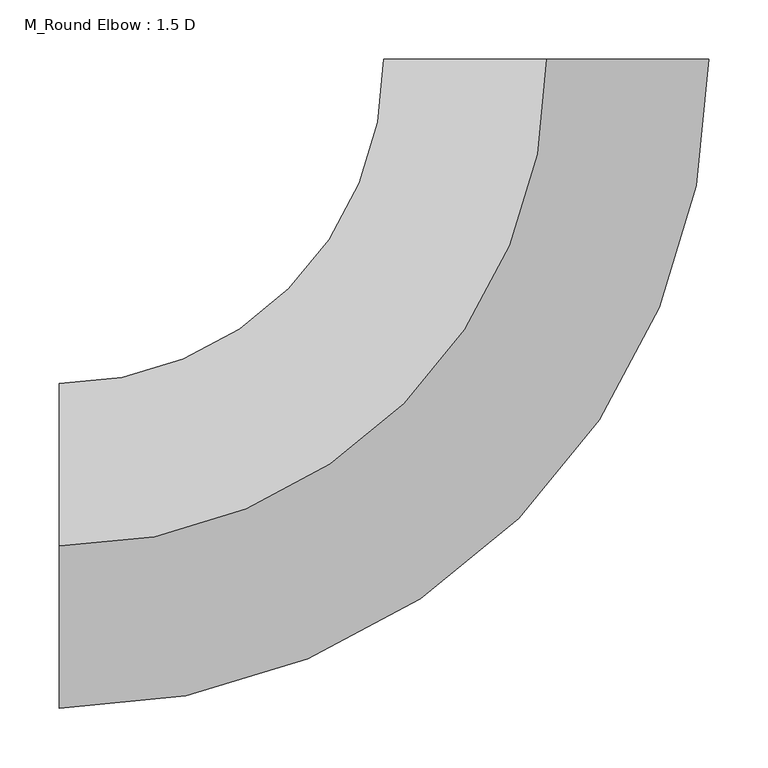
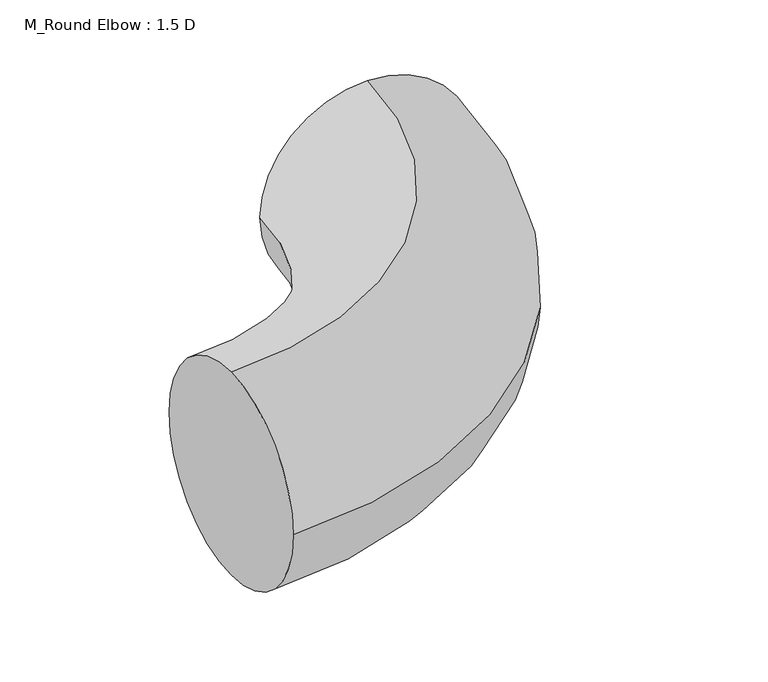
"""IFC4 building model written with IfcOpenShell, lengths in millimetres: duct fitting geometry, M_Round Elbow : 1.5 D."""

import ifcopenshell
import ifcopenshell.guid

model = None  # the IFC model being written
_history = None  # IfcOwnerHistory: only IFC2X3 demands one
_inside = {}  # id of a spatial element -> (the spatial element, [elements in it])
_under = {}  # id of a project, library or spatial element -> (it, [spatial elements below it])
_declared = {}  # id of a project -> (the project, [libraries it declares])
_typed = {}  # id of a type object -> (the type object, [elements of that type])
_made_of = {}  # id of a material, layer set ... -> (it, [elements and type objects made of it])


def new_model(schema):
    """Start an empty IFC model of exactly this schema.

    Asked for "IFC4X3", IfcOpenShell would pick the latest addendum, in which some entities
    have other attributes; the version numbers below select the first issue.
    IFC2X3 requires an IfcOwnerHistory on every rooted entity: one is made here for all.
    """
    global model, _history
    if schema == "IFC4X3":
        model = ifcopenshell.file(schema_version=(4, 3, 0, 0))
    else:
        model = ifcopenshell.file(schema=schema)
    _inside.clear()
    _under.clear()
    _declared.clear()
    _typed.clear()
    _made_of.clear()
    _history = None
    if model.schema == "IFC2X3":
        org = make("IfcOrganization", Name="unknown")
        user = make(
            "IfcPersonAndOrganization",
            ThePerson=make("IfcPerson", FamilyName="unknown"),
            TheOrganization=org,
        )
        app = make(
            "IfcApplication",
            ApplicationDeveloper=org,
            Version="unknown",
            ApplicationFullName="unknown",
            ApplicationIdentifier="unknown",
        )
        _history = make(
            "IfcOwnerHistory",
            OwningUser=user,
            OwningApplication=app,
            ChangeAction="ADDED",
            CreationDate=0,
        )
    return model


def make(cls, **values):
    """One entity of the class cls with the attributes given. An attribute that is None is left unset."""
    return model.create_entity(
        cls, **{name: value for name, value in values.items() if value is not None}
    )


def rooted(cls, **values):
    """An entity with a GlobalId (a new one), such as an element, a storey or a relation."""
    return make(cls, GlobalId=ifcopenshell.guid.new(), OwnerHistory=_history, **values)


def si_unit(unit_type, name, prefix=None):
    """IfcSIUnit, for example si_unit("LENGTHUNIT", "METRE", prefix="MILLI")."""
    return make("IfcSIUnit", UnitType=unit_type, Prefix=prefix, Name=name)


def assignment(units):
    """IfcUnitAssignment: the units of a project."""
    return None if units is None else make("IfcUnitAssignment", Units=units)


def point(xyz):
    """IfcCartesianPoint."""
    return None if xyz is None else make("IfcCartesianPoint", Coordinates=xyz)


def direction(xyz):
    """IfcDirection."""
    return None if xyz is None else make("IfcDirection", DirectionRatios=xyz)


def frame(location, z_axis=None, x_axis=None):
    """IfcAxis2Placement3D, a coordinate frame: its origin and axes. An axis left out is left unset."""
    return make(
        "IfcAxis2Placement3D",
        Location=point(location),
        Axis=direction(z_axis),
        RefDirection=direction(x_axis),
    )


def origin():
    """The frame at (0, 0, 0) with its axes left unset."""
    return frame((0.0, 0.0, 0.0))


def place(relative_to, where):
    """IfcLocalPlacement: puts the frame where relative to a parent placement (None: the world)."""
    return make(
        "IfcLocalPlacement", PlacementRelTo=relative_to, RelativePlacement=where
    )


def context(
    kind, dimensions, precision=None, world=None, true_north=None, identifier=None
):
    """IfcGeometricRepresentationContext, for example the 3D "Model" context."""
    return make(
        "IfcGeometricRepresentationContext",
        ContextIdentifier=identifier,
        ContextType=kind,
        CoordinateSpaceDimension=dimensions,
        Precision=precision,
        WorldCoordinateSystem=world,
        TrueNorth=true_north,
    )


def project(units=None, contexts=None):
    """IfcProject with its units and contexts."""
    return rooted(
        "IfcProject",
        Name="project",
        RepresentationContexts=contexts,
        UnitsInContext=assignment(units),
    )


def spatial(cls, under=None, at=None, **own):
    """A site, building, storey or space (cls), placed at a placement, below another one or the project."""
    s = rooted(cls, ObjectPlacement=at, **own)
    if under is not None:
        _under.setdefault(under.id(), (under, []))[1].append(s)
    return s


def circle_curve(where, radius):
    """IfcCircle in the frame where."""
    return make("IfcCircle", Position=where, Radius=radius)


def ellipse_curve(where, semi_axis1, semi_axis2):
    """IfcEllipse in the frame where."""
    return make(
        "IfcEllipse", Position=where, SemiAxis1=semi_axis1, SemiAxis2=semi_axis2
    )


def trimmed(basis, trim1, trim2, sense, master):
    """IfcTrimmedCurve: the piece of a basis curve between two trims."""
    return make(
        "IfcTrimmedCurve",
        BasisCurve=basis,
        Trim1=trim1,
        Trim2=trim2,
        SenseAgreement=sense,
        MasterRepresentation=master,
    )


def shape(context_of_items, identifier, shape_type, items):
    """IfcShapeRepresentation: the items that make up one representation, for example the "Body"."""
    return make(
        "IfcShapeRepresentation",
        ContextOfItems=context_of_items,
        RepresentationIdentifier=identifier,
        RepresentationType=shape_type,
        Items=items,
    )


def source(mapping_origin, context_of_items, identifier, shape_type, items):
    """IfcRepresentationMap: a shape defined once, which mapped items show again and again."""
    return make(
        "IfcRepresentationMap",
        MappingOrigin=mapping_origin,
        MappedRepresentation=shape(context_of_items, identifier, shape_type, items),
    )


def transform(
    local_origin,
    x_axis=None,
    y_axis=None,
    z_axis=None,
    scale=None,
    scale2=None,
    scale3=None,
    uniform=True,
):
    """IfcCartesianTransformationOperator3D, or its non-uniform kind. x_axis, y_axis, z_axis: its Axis1, 2, 3."""
    if uniform:
        return make(
            "IfcCartesianTransformationOperator3D",
            Axis1=direction(x_axis),
            Axis2=direction(y_axis),
            LocalOrigin=point(local_origin),
            Scale=scale,
            Axis3=direction(z_axis),
        )
    return make(
        "IfcCartesianTransformationOperator3DnonUniform",
        Axis1=direction(x_axis),
        Axis2=direction(y_axis),
        LocalOrigin=point(local_origin),
        Scale=scale,
        Axis3=direction(z_axis),
        Scale2=scale2,
        Scale3=scale3,
    )


def mapped(mapping_source, mapping_target):
    """IfcMappedItem: shows the shape of a source again, moved by a transform."""
    return make(
        "IfcMappedItem", MappingSource=mapping_source, MappingTarget=mapping_target
    )


def made_of(thing, what):
    """Note that an element or type object is made of a material, layer set ...; save() writes the relation."""
    if what is not None:
        _made_of.setdefault(what.id(), (what, []))[1].append(thing)
    return thing


def element(
    cls,
    number,
    at=None,
    inside=None,
    cuts=None,
    type_object=None,
    material=None,
    context=None,
    identifier="Body",
    shape_type=None,
    held_by="IfcProductDefinitionShape",
    body=None,
    shapes=None,
    **own,
):
    """One element of the class cls, such as IfcWall. Its Tag is "e" and its number.

    at: its placement. inside: the storey or other place that contains it. cuts: it is an
    opening in that element (IfcRelVoidsElement). A single representation is given by context,
    identifier, shape_type and body (its items); several are given by shapes. held_by: the class
    of the entity that holds the representations. save() writes the other relations.
    """
    e = rooted(cls, Tag="e%d" % number, ObjectPlacement=at, **own)
    if body is not None:
        shapes = [shape(context, identifier, shape_type, body)]
    if shapes is not None:
        e.Representation = make(held_by, Representations=shapes)
    if inside is not None:
        _inside.setdefault(inside.id(), (inside, []))[1].append(e)
    if cuts is not None:
        rooted(
            "IfcRelVoidsElement", RelatingBuildingElement=cuts, RelatedOpeningElement=e
        )
    if type_object is not None:
        _typed.setdefault(type_object.id(), (type_object, []))[1].append(e)
    return made_of(e, material)


def aggregate(whole, parts):
    """IfcRelAggregates: a whole, such as a stair, and the parts it consists of."""
    return rooted("IfcRelAggregates", RelatingObject=whole, RelatedObjects=parts)


def save(model, path):
    """Write the relations noted so far, then the file.

    IfcRelAggregates (storeys below a building ...), IfcRelContainedInSpatialStructure (elements
    in a storey), IfcRelDefinesByType, IfcRelAssociatesMaterial and IfcRelDeclares: one each for
    every whole, place, type object, material and project.
    """
    for whole, parts in _under.values():
        aggregate(whole, parts)
    for where, things in _inside.values():
        rooted(
            "IfcRelContainedInSpatialStructure",
            RelatedElements=things,
            RelatingStructure=where,
        )
    for kind, things in _typed.values():
        rooted("IfcRelDefinesByType", RelatedObjects=things, RelatingType=kind)
    for what, things in _made_of.values():
        rooted("IfcRelAssociatesMaterial", RelatedObjects=things, RelatingMaterial=what)
    for by, libraries in _declared.values():
        rooted("IfcRelDeclares", RelatingContext=by, RelatedDefinitions=libraries)
    model.write(path)


def plane_surface(at):
    """IfcPlane: the flat surface through the origin of the frame at, square to its z axis."""
    return make("IfcPlane", Position=at)


def revolved_surface(curve, axis_point, axis_direction):
    """IfcSurfaceOfRevolution: the curve turned about the line through axis_point along axis_direction."""
    return make(
        "IfcSurfaceOfRevolution",
        SweptCurve=make("IfcArbitraryOpenProfileDef", ProfileType="CURVE", Curve=curve),
        AxisPosition=make("IfcAxis1Placement", Location=point(axis_point), Axis=direction(axis_direction)),
    )


def advanced_brep(points, edges, surfaces, faces):
    """IfcAdvancedBrep: a solid bounded by faces that lie on surfaces and meet in shared edges.

    An edge is (start, end): straight between two places in points (the first is 0);
    or (start, end, curve); or (start, end, curve, False) where it runs against its curve.
    A face is (place in surfaces, loops), or (place, loops, False) where it looks against
    its surface's normal. A loop lists edges by number (the first is 1), with a minus sign
    where the edge is run from its end to its start. The first loop is the outer one.
    """
    corners = [point(p) for p in points]
    vertices = [make("IfcVertexPoint", VertexGeometry=c) for c in corners]
    made = []
    for start, end, *more in edges:
        made.append(
            make(
                "IfcEdgeCurve",
                EdgeStart=vertices[start],
                EdgeEnd=vertices[end],
                EdgeGeometry=more[0] if more else make("IfcPolyline", Points=[corners[start], corners[end]]),
                SameSense=more[1] if len(more) > 1 else True,
            )
        )
    hull = []
    for where, loops, *sense in faces:
        bounds = []
        for j, loop in enumerate(loops):
            ring = [make("IfcOrientedEdge", EdgeElement=made[abs(k) - 1], Orientation=k > 0) for k in loop]
            bounds.append(
                make(
                    "IfcFaceOuterBound" if j == 0 else "IfcFaceBound",
                    Bound=make("IfcEdgeLoop", EdgeList=ring),
                    Orientation=True,
                )
            )
        hull.append(make("IfcAdvancedFace", Bounds=bounds, FaceSurface=surfaces[where], SameSense=sense[0] if sense else True))
    return make("IfcAdvancedBrep", Outer=make("IfcClosedShell", CfsFaces=hull))


def m_round_elbow_1_5_d_a1532cb2(model_context):
    return source(origin(), model_context, "Body", "AdvancedBrep", [
        advanced_brep(
        [(-412.5, 0.0, 137.5), (-412.5, 137.5, 0.0), (-412.5, 0.0, -137.5), (-412.5, -137.5, 0.0), (0.0, 412.5, 137.5), (137.5, 412.5, 0.0), (0.0, 412.5, -137.5), (-137.5, 412.5, 0.0)],
        [
            (0, 1, circle_curve(frame((-412.5, 0.0, 0.0), z_axis=(-1.0, 0.0, 0.0), x_axis=(0.0, 1.0, 0.0)), 137.5)),
            (1, 2, circle_curve(frame((-412.5, 0.0, 0.0), z_axis=(-1.0, 0.0, 0.0), x_axis=(0.0, 1.0, 0.0)), 137.5)),
            (2, 3, circle_curve(frame((-412.5, 0.0, 0.0), z_axis=(-1.0, 0.0, 0.0), x_axis=(0.0, 1.0, 0.0)), 137.5)),
            (3, 0, circle_curve(frame((-412.5, 0.0, 0.0), z_axis=(-1.0, 0.0, 0.0), x_axis=(0.0, 1.0, 0.0)), 137.5)),
            (4, 5, circle_curve(frame((0.0, 412.5, 0.0), z_axis=(0.0, 1.0, 0.0), x_axis=(-1.0, 0.0, 0.0)), 137.5)),
            (5, 6, circle_curve(frame((0.0, 412.5, 0.0), z_axis=(0.0, 1.0, 0.0), x_axis=(-1.0, 0.0, 0.0)), 137.5)),
            (6, 7, circle_curve(frame((0.0, 412.5, 0.0), z_axis=(0.0, 1.0, 0.0), x_axis=(-1.0, 0.0, 0.0)), 137.5)),
            (7, 4, circle_curve(frame((0.0, 412.5, 0.0), z_axis=(0.0, 1.0, 0.0), x_axis=(-1.0, 0.0, 0.0)), 137.5)),
            (7, 1, circle_curve(frame((-412.5, 412.5, 0.0), z_axis=(0.0, 0.0, -1.0), x_axis=(0.0, -1.0, 0.0)), 275.0)),
            (0, 4, circle_curve(frame((-412.5, 412.5, 137.5), z_axis=(0.0, 0.0, 1.0), x_axis=(0.0, -1.0, 0.0)), 412.5)),
            (6, 2, circle_curve(frame((-412.5, 412.5, -137.5), z_axis=(0.0, 0.0, -1.0), x_axis=(0.0, -1.0, 0.0)), 412.5)),
            (5, 3, circle_curve(frame((-412.5, 412.5, 0.0), z_axis=(0.0, 0.0, -1.0), x_axis=(0.0, -1.0, 0.0)), 550.0)),
        ],
        [
            plane_surface(frame((-412.5, 0.0, 0.0), z_axis=(-1.0, 0.0, 0.0), x_axis=(0.0, 0.0, 1.0))),
            plane_surface(frame((0.0, 412.5, 0.0), z_axis=(0.0, 1.0, 0.0), x_axis=(0.0, 0.0, 1.0))),
            revolved_surface(trimmed(ellipse_curve(frame((-412.5, 0.0, 0.0), z_axis=(-1.0, 0.0, 0.0), x_axis=(0.0, 1.0, 0.0)), 137.5, 137.5), [point((-412.5, 0.0, 137.5))], [point((-412.5, 137.5, 0.0))], True, "CARTESIAN"), (-412.5, 412.5, 0.0), (0.0, 0.0, 1.0)),
            revolved_surface(trimmed(ellipse_curve(frame((-412.5, 0.0, 0.0), z_axis=(-1.0, 0.0, 0.0), x_axis=(0.0, 1.0, 0.0)), 137.5, 137.5), [point((-412.5, 137.5, 0.0))], [point((-412.5, 0.0, -137.5))], True, "CARTESIAN"), (-412.5, 412.5, 0.0), (0.0, 0.0, 1.0)),
            revolved_surface(trimmed(ellipse_curve(frame((-412.5, 0.0, 0.0), z_axis=(-1.0, 0.0, 0.0), x_axis=(0.0, 1.0, 0.0)), 137.5, 137.5), [point((-412.5, 0.0, -137.5))], [point((-412.5, -137.5, 0.0))], True, "CARTESIAN"), (-412.5, 412.5, 0.0), (0.0, 0.0, 1.0)),
            revolved_surface(trimmed(ellipse_curve(frame((-412.5, 0.0, 0.0), z_axis=(-1.0, 0.0, 0.0), x_axis=(0.0, 1.0, 0.0)), 137.5, 137.5), [point((-412.5, -137.5, 0.0))], [point((-412.5, 0.0, 137.5))], True, "CARTESIAN"), (-412.5, 412.5, 0.0), (0.0, 0.0, 1.0)),
        ],
        [
            (0, [[1, 2, 3, 4]]),
            (1, [[5, 6, 7, 8]]),
            (2, [[9, -1, 10, -8]]),
            (3, [[11, -2, -9, -7]]),
            (4, [[12, -3, -11, -6]]),
            (5, [[-10, -4, -12, -5]]),
        ],
    ),
        advanced_brep(
        [(-412.5, 0.0, 137.5), (-412.5, 137.5, 0.0), (-412.5, 0.0, -137.5), (-412.5, -137.5, 0.0), (0.0, 412.5, 137.5), (137.5, 412.5, 0.0), (0.0, 412.5, -137.5), (-137.5, 412.5, 0.0)],
        [
            (0, 1, circle_curve(frame((-412.5, 0.0, 0.0), z_axis=(-1.0, 0.0, 0.0), x_axis=(0.0, 1.0, 0.0)), 137.5)),
            (1, 2, circle_curve(frame((-412.5, 0.0, 0.0), z_axis=(-1.0, 0.0, 0.0), x_axis=(0.0, 1.0, 0.0)), 137.5)),
            (2, 3, circle_curve(frame((-412.5, 0.0, 0.0), z_axis=(-1.0, 0.0, 0.0), x_axis=(0.0, 1.0, 0.0)), 137.5)),
            (3, 0, circle_curve(frame((-412.5, 0.0, 0.0), z_axis=(-1.0, 0.0, 0.0), x_axis=(0.0, 1.0, 0.0)), 137.5)),
            (4, 5, circle_curve(frame((0.0, 412.5, 0.0), z_axis=(0.0, 1.0, 0.0), x_axis=(-1.0, 0.0, 0.0)), 137.5)),
            (5, 6, circle_curve(frame((0.0, 412.5, 0.0), z_axis=(0.0, 1.0, 0.0), x_axis=(-1.0, 0.0, 0.0)), 137.5)),
            (6, 7, circle_curve(frame((0.0, 412.5, 0.0), z_axis=(0.0, 1.0, 0.0), x_axis=(-1.0, 0.0, 0.0)), 137.5)),
            (7, 4, circle_curve(frame((0.0, 412.5, 0.0), z_axis=(0.0, 1.0, 0.0), x_axis=(-1.0, 0.0, 0.0)), 137.5)),
            (7, 1, circle_curve(frame((-412.5, 412.5, 0.0), z_axis=(0.0, 0.0, -1.0), x_axis=(0.0, -1.0, 0.0)), 275.0)),
            (0, 4, circle_curve(frame((-412.5, 412.5, 137.5), z_axis=(0.0, 0.0, 1.0), x_axis=(0.0, -1.0, 0.0)), 412.5)),
            (6, 2, circle_curve(frame((-412.5, 412.5, -137.5), z_axis=(0.0, 0.0, -1.0), x_axis=(0.0, -1.0, 0.0)), 412.5)),
            (5, 3, circle_curve(frame((-412.5, 412.5, 0.0), z_axis=(0.0, 0.0, -1.0), x_axis=(0.0, -1.0, 0.0)), 550.0)),
        ],
        [
            plane_surface(frame((-412.5, 0.0, 0.0), z_axis=(-1.0, 0.0, 0.0), x_axis=(0.0, 0.0, 1.0))),
            plane_surface(frame((0.0, 412.5, 0.0), z_axis=(0.0, 1.0, 0.0), x_axis=(0.0, 0.0, 1.0))),
            revolved_surface(trimmed(ellipse_curve(frame((-412.5, 0.0, 0.0), z_axis=(-1.0, 0.0, 0.0), x_axis=(0.0, 1.0, 0.0)), 137.5, 137.5), [point((-412.5, 0.0, 137.5))], [point((-412.5, 137.5, 0.0))], True, "CARTESIAN"), (-412.5, 412.5, 0.0), (0.0, 0.0, 1.0)),
            revolved_surface(trimmed(ellipse_curve(frame((-412.5, 0.0, 0.0), z_axis=(-1.0, 0.0, 0.0), x_axis=(0.0, 1.0, 0.0)), 137.5, 137.5), [point((-412.5, 137.5, 0.0))], [point((-412.5, 0.0, -137.5))], True, "CARTESIAN"), (-412.5, 412.5, 0.0), (0.0, 0.0, 1.0)),
            revolved_surface(trimmed(ellipse_curve(frame((-412.5, 0.0, 0.0), z_axis=(-1.0, 0.0, 0.0), x_axis=(0.0, 1.0, 0.0)), 137.5, 137.5), [point((-412.5, 0.0, -137.5))], [point((-412.5, -137.5, 0.0))], True, "CARTESIAN"), (-412.5, 412.5, 0.0), (0.0, 0.0, 1.0)),
            revolved_surface(trimmed(ellipse_curve(frame((-412.5, 0.0, 0.0), z_axis=(-1.0, 0.0, 0.0), x_axis=(0.0, 1.0, 0.0)), 137.5, 137.5), [point((-412.5, -137.5, 0.0))], [point((-412.5, 0.0, 137.5))], True, "CARTESIAN"), (-412.5, 412.5, 0.0), (0.0, 0.0, 1.0)),
        ],
        [
            (0, [[1, 2, 3, 4]]),
            (1, [[5, 6, 7, 8]]),
            (2, [[9, -1, 10, -8]]),
            (3, [[11, -2, -9, -7]]),
            (4, [[12, -3, -11, -6]]),
            (5, [[-10, -4, -12, -5]]),
        ],
    ),
        advanced_brep(
        [(-412.5, 0.0, 137.5), (-412.5, 137.5, 0.0), (-412.5, 0.0, -137.5), (-412.5, -137.5, 0.0), (0.0, 412.5, 137.5), (137.5, 412.5, 0.0), (0.0, 412.5, -137.5), (-137.5, 412.5, 0.0)],
        [
            (0, 1, circle_curve(frame((-412.5, 0.0, 0.0), z_axis=(-1.0, 0.0, 0.0), x_axis=(0.0, 1.0, 0.0)), 137.5)),
            (1, 2, circle_curve(frame((-412.5, 0.0, 0.0), z_axis=(-1.0, 0.0, 0.0), x_axis=(0.0, 1.0, 0.0)), 137.5)),
            (2, 3, circle_curve(frame((-412.5, 0.0, 0.0), z_axis=(-1.0, 0.0, 0.0), x_axis=(0.0, 1.0, 0.0)), 137.5)),
            (3, 0, circle_curve(frame((-412.5, 0.0, 0.0), z_axis=(-1.0, 0.0, 0.0), x_axis=(0.0, 1.0, 0.0)), 137.5)),
            (4, 5, circle_curve(frame((0.0, 412.5, 0.0), z_axis=(0.0, 1.0, 0.0), x_axis=(-1.0, 0.0, 0.0)), 137.5)),
            (5, 6, circle_curve(frame((0.0, 412.5, 0.0), z_axis=(0.0, 1.0, 0.0), x_axis=(-1.0, 0.0, 0.0)), 137.5)),
            (6, 7, circle_curve(frame((0.0, 412.5, 0.0), z_axis=(0.0, 1.0, 0.0), x_axis=(-1.0, 0.0, 0.0)), 137.5)),
            (7, 4, circle_curve(frame((0.0, 412.5, 0.0), z_axis=(0.0, 1.0, 0.0), x_axis=(-1.0, 0.0, 0.0)), 137.5)),
            (7, 1, circle_curve(frame((-412.5, 412.5, 0.0), z_axis=(0.0, 0.0, -1.0), x_axis=(0.0, -1.0, 0.0)), 275.0)),
            (0, 4, circle_curve(frame((-412.5, 412.5, 137.5), z_axis=(0.0, 0.0, 1.0), x_axis=(0.0, -1.0, 0.0)), 412.5)),
            (6, 2, circle_curve(frame((-412.5, 412.5, -137.5), z_axis=(0.0, 0.0, -1.0), x_axis=(0.0, -1.0, 0.0)), 412.5)),
            (5, 3, circle_curve(frame((-412.5, 412.5, 0.0), z_axis=(0.0, 0.0, -1.0), x_axis=(0.0, -1.0, 0.0)), 550.0)),
        ],
        [
            plane_surface(frame((-412.5, 0.0, 0.0), z_axis=(-1.0, 0.0, 0.0), x_axis=(0.0, 0.0, 1.0))),
            plane_surface(frame((0.0, 412.5, 0.0), z_axis=(0.0, 1.0, 0.0), x_axis=(0.0, 0.0, 1.0))),
            revolved_surface(trimmed(ellipse_curve(frame((-412.5, 0.0, 0.0), z_axis=(-1.0, 0.0, 0.0), x_axis=(0.0, 1.0, 0.0)), 137.5, 137.5), [point((-412.5, 0.0, 137.5))], [point((-412.5, 137.5, 0.0))], True, "CARTESIAN"), (-412.5, 412.5, 0.0), (0.0, 0.0, 1.0)),
            revolved_surface(trimmed(ellipse_curve(frame((-412.5, 0.0, 0.0), z_axis=(-1.0, 0.0, 0.0), x_axis=(0.0, 1.0, 0.0)), 137.5, 137.5), [point((-412.5, 137.5, 0.0))], [point((-412.5, 0.0, -137.5))], True, "CARTESIAN"), (-412.5, 412.5, 0.0), (0.0, 0.0, 1.0)),
            revolved_surface(trimmed(ellipse_curve(frame((-412.5, 0.0, 0.0), z_axis=(-1.0, 0.0, 0.0), x_axis=(0.0, 1.0, 0.0)), 137.5, 137.5), [point((-412.5, 0.0, -137.5))], [point((-412.5, -137.5, 0.0))], True, "CARTESIAN"), (-412.5, 412.5, 0.0), (0.0, 0.0, 1.0)),
            revolved_surface(trimmed(ellipse_curve(frame((-412.5, 0.0, 0.0), z_axis=(-1.0, 0.0, 0.0), x_axis=(0.0, 1.0, 0.0)), 137.5, 137.5), [point((-412.5, -137.5, 0.0))], [point((-412.5, 0.0, 137.5))], True, "CARTESIAN"), (-412.5, 412.5, 0.0), (0.0, 0.0, 1.0)),
        ],
        [
            (0, [[1, 2, 3, 4]]),
            (1, [[5, 6, 7, 8]]),
            (2, [[9, -1, 10, -8]]),
            (3, [[11, -2, -9, -7]]),
            (4, [[12, -3, -11, -6]]),
            (5, [[-10, -4, -12, -5]]),
        ],
    ),
    ])


if __name__ == "__main__":
    model = new_model("IFC4")
    model_context = context("Model", 3, world=origin())
    ifc_project = project(units=[si_unit("LENGTHUNIT", "METRE", prefix="MILLI")], contexts=[model_context])
    site = spatial("IfcSite", under=ifc_project)
    building = spatial("IfcBuilding", under=site)
    placement = place(None, origin())
    m_round_elbow_1_5_d_shape = m_round_elbow_1_5_d_a1532cb2(model_context)
    element("IfcDuctFitting", 1, ObjectType="M_Round Elbow : 1.5 D", at=placement, inside=building, context=model_context, shape_type="MappedRepresentation", body=[
        mapped(m_round_elbow_1_5_d_shape, transform((0.0, 0.0, 0.0), x_axis=(1.0, 0.0, 0.0), y_axis=(0.0, 1.0, 0.0), z_axis=(0.0, 0.0, 1.0))),
    ])
    save(model, "model.ifc")
